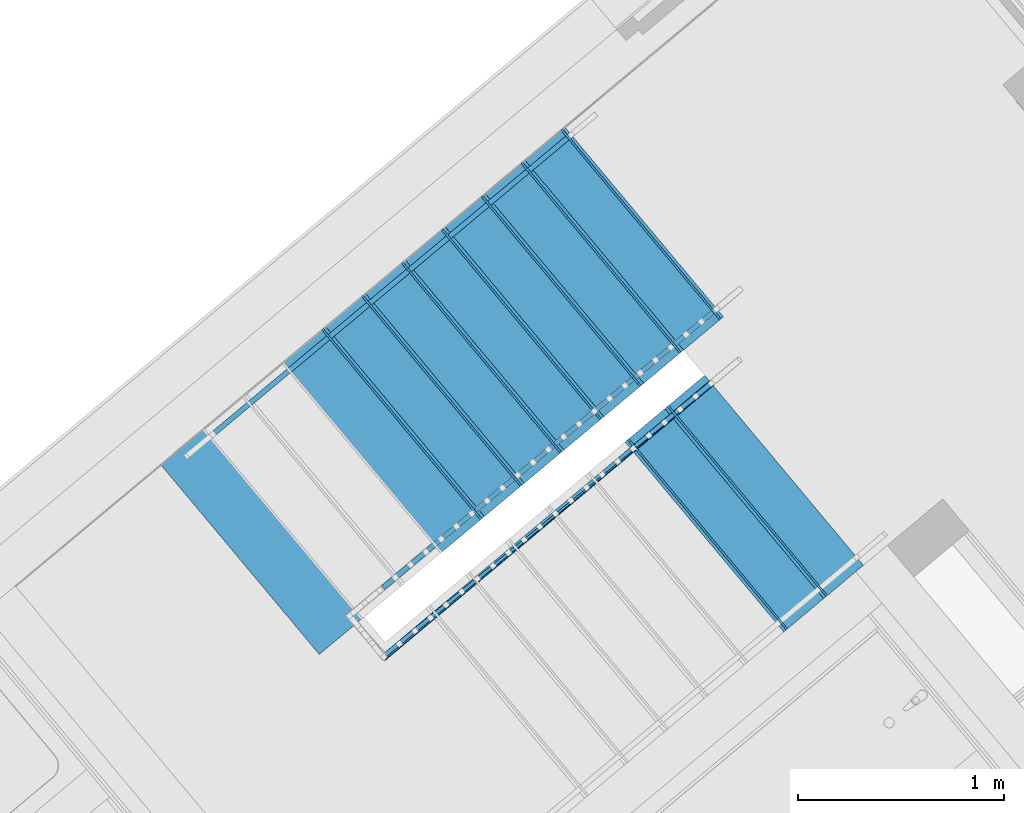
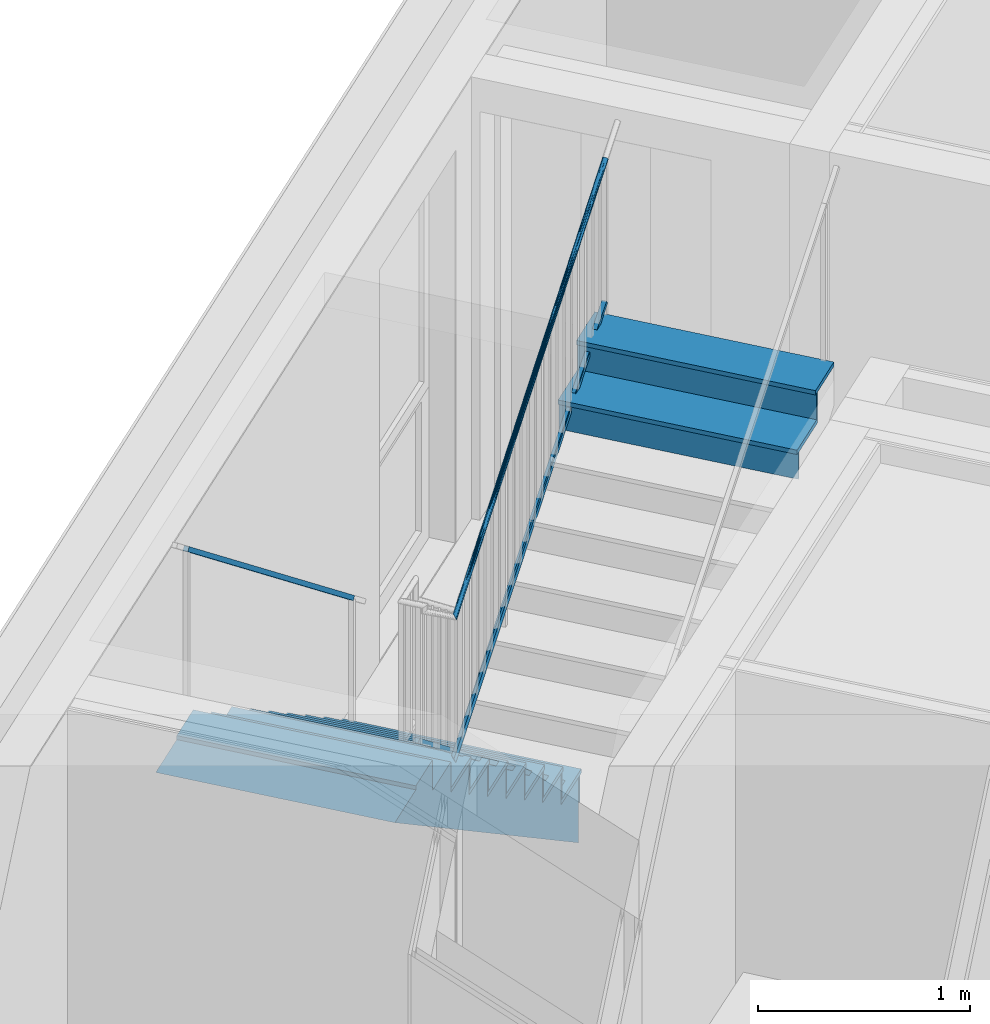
# One storey, part 33 of 58: 23 building element parts, 3 elements without a shape of their own.
"""IFC4 building model written with IfcOpenShell, lengths in metres."""

import ifcopenshell
import ifcopenshell.guid

model = None  # the IFC model being written
_history = None  # IfcOwnerHistory: only IFC2X3 demands one
_inside = {}  # id of a spatial element -> (the spatial element, [elements in it])
_under = {}  # id of a project, library or spatial element -> (it, [spatial elements below it])
_declared = {}  # id of a project -> (the project, [libraries it declares])
_typed = {}  # id of a type object -> (the type object, [elements of that type])
_made_of = {}  # id of a material, layer set ... -> (it, [elements and type objects made of it])


def new_model(schema):
    """Start an empty IFC model of exactly this schema.

    Asked for "IFC4X3", IfcOpenShell would pick the latest addendum, in which some entities
    have other attributes; the version numbers below select the first issue.
    IFC2X3 requires an IfcOwnerHistory on every rooted entity: one is made here for all.
    """
    global model, _history
    if schema == "IFC4X3":
        model = ifcopenshell.file(schema_version=(4, 3, 0, 0))
    else:
        model = ifcopenshell.file(schema=schema)
    _inside.clear()
    _under.clear()
    _declared.clear()
    _typed.clear()
    _made_of.clear()
    _history = None
    if model.schema == "IFC2X3":
        org = make("IfcOrganization", Name="unknown")
        user = make(
            "IfcPersonAndOrganization",
            ThePerson=make("IfcPerson", FamilyName="unknown"),
            TheOrganization=org,
        )
        app = make(
            "IfcApplication",
            ApplicationDeveloper=org,
            Version="unknown",
            ApplicationFullName="unknown",
            ApplicationIdentifier="unknown",
        )
        _history = make(
            "IfcOwnerHistory",
            OwningUser=user,
            OwningApplication=app,
            ChangeAction="ADDED",
            CreationDate=0,
        )
    return model


def make(cls, **values):
    """One entity of the class cls with the attributes given. An attribute that is None is left unset."""
    return model.create_entity(
        cls, **{name: value for name, value in values.items() if value is not None}
    )


def entity(cls, *values):
    """Any entity or typed value of the class cls, its attributes in the order of the schema. None: left unset."""
    e = model.create_entity(cls)
    for i, value in enumerate(values):
        if value is not None:
            e[i] = value
    return e


def rooted(cls, **values):
    """An entity with a GlobalId (a new one), such as an element, a storey or a relation."""
    return make(cls, GlobalId=ifcopenshell.guid.new(), OwnerHistory=_history, **values)


def si_unit(unit_type, name, prefix=None):
    """IfcSIUnit, for example si_unit("LENGTHUNIT", "METRE", prefix="MILLI")."""
    return make("IfcSIUnit", UnitType=unit_type, Prefix=prefix, Name=name)


def converted_unit(unit_type, name, factor, base, dimensions=None, offset=None):
    """IfcConversionBasedUnit, such as the inch: factor (a typed value) times the base unit."""
    return make(
        "IfcConversionBasedUnit"
        if offset is None
        else "IfcConversionBasedUnitWithOffset",
        ConversionOffset=offset,
        Dimensions=None
        if dimensions is None
        else entity("IfcDimensionalExponents", *dimensions),
        UnitType=unit_type,
        Name=name,
        ConversionFactor=make(
            "IfcMeasureWithUnit", ValueComponent=factor, UnitComponent=base
        ),
    )


def derived_unit(unit_type, elements):
    """IfcDerivedUnit: a product of units, each with its exponent."""
    return make(
        "IfcDerivedUnit",
        Elements=[
            make("IfcDerivedUnitElement", Unit=unit, Exponent=power)
            for unit, power in elements
        ],
        UnitType=unit_type,
    )


def assignment(units):
    """IfcUnitAssignment: the units of a project."""
    return None if units is None else make("IfcUnitAssignment", Units=units)


def point(xyz):
    """IfcCartesianPoint."""
    return None if xyz is None else make("IfcCartesianPoint", Coordinates=xyz)


def direction(xyz):
    """IfcDirection."""
    return None if xyz is None else make("IfcDirection", DirectionRatios=xyz)


def frame(location, z_axis=None, x_axis=None):
    """IfcAxis2Placement3D, a coordinate frame: its origin and axes. An axis left out is left unset."""
    return make(
        "IfcAxis2Placement3D",
        Location=point(location),
        Axis=direction(z_axis),
        RefDirection=direction(x_axis),
    )


def origin_with_axes():
    """The frame at (0, 0, 0) with the z axis (0, 0, 1) and the x axis (1, 0, 0) written out."""
    return frame((0.0, 0.0, 0.0), z_axis=(0.0, 0.0, 1.0), x_axis=(1.0, 0.0, 0.0))


def place(relative_to, where):
    """IfcLocalPlacement: puts the frame where relative to a parent placement (None: the world)."""
    return make(
        "IfcLocalPlacement", PlacementRelTo=relative_to, RelativePlacement=where
    )


def context(
    kind, dimensions, precision=None, world=None, true_north=None, identifier=None
):
    """IfcGeometricRepresentationContext, for example the 3D "Model" context."""
    return make(
        "IfcGeometricRepresentationContext",
        ContextIdentifier=identifier,
        ContextType=kind,
        CoordinateSpaceDimension=dimensions,
        Precision=precision,
        WorldCoordinateSystem=world,
        TrueNorth=true_north,
    )


def subcontext(parent, identifier, kind, view, scale=None):
    """IfcGeometricRepresentationSubContext, for example "Body" below "Model"."""
    return make(
        "IfcGeometricRepresentationSubContext",
        ContextIdentifier=identifier,
        ContextType=kind,
        ParentContext=parent,
        TargetScale=scale,
        TargetView=view,
    )


def project(units=None, contexts=None):
    """IfcProject with its units and contexts."""
    return rooted(
        "IfcProject",
        Name="project",
        RepresentationContexts=contexts,
        UnitsInContext=assignment(units),
    )


def spatial(cls, under=None, at=None, **own):
    """A site, building, storey or space (cls), placed at a placement, below another one or the project."""
    s = rooted(cls, ObjectPlacement=at, **own)
    if under is not None:
        _under.setdefault(under.id(), (under, []))[1].append(s)
    return s


def point_list(points):
    """IfcCartesianPointList2D or 3D."""
    cls = (
        "IfcCartesianPointList2D" if len(points[0]) == 2 else "IfcCartesianPointList3D"
    )
    return make(cls, CoordList=points)


def polygons(points, faces, closed=None, point_numbers=None):
    """IfcPolygonalFaceSet: a face is its outer loop, then its inner loops; points numbered from 1."""
    made = []
    for loops in faces:
        if len(loops) == 1:
            made.append(make("IfcIndexedPolygonalFace", CoordIndex=loops[0]))
        else:
            made.append(
                make(
                    "IfcIndexedPolygonalFaceWithVoids",
                    CoordIndex=loops[0],
                    InnerCoordIndices=loops[1:],
                )
            )
    return make(
        "IfcPolygonalFaceSet",
        Coordinates=point_list(points),
        Closed=closed,
        Faces=made,
        PnIndex=point_numbers,
    )


def shape(context_of_items, identifier, shape_type, items):
    """IfcShapeRepresentation: the items that make up one representation, for example the "Body"."""
    return make(
        "IfcShapeRepresentation",
        ContextOfItems=context_of_items,
        RepresentationIdentifier=identifier,
        RepresentationType=shape_type,
        Items=items,
    )


def material(Name=None, Category=None):
    """IfcMaterial."""
    return make("IfcMaterial", Name=Name, Category=Category)


def made_of(thing, what):
    """Note that an element or type object is made of a material, layer set ...; save() writes the relation."""
    if what is not None:
        _made_of.setdefault(what.id(), (what, []))[1].append(thing)
    return thing


def type_object(cls, material=None, **own):
    """A type object (cls), such as IfcWallType, which elements share."""
    return made_of(rooted(cls, **own), material)


def element(
    cls,
    number,
    at=None,
    inside=None,
    cuts=None,
    type_object=None,
    material=None,
    context=None,
    identifier="Body",
    shape_type=None,
    held_by="IfcProductDefinitionShape",
    body=None,
    shapes=None,
    **own,
):
    """One element of the class cls, such as IfcWall. Its Tag is "e" and its number.

    at: its placement. inside: the storey or other place that contains it. cuts: it is an
    opening in that element (IfcRelVoidsElement). A single representation is given by context,
    identifier, shape_type and body (its items); several are given by shapes. held_by: the class
    of the entity that holds the representations. save() writes the other relations.
    """
    e = rooted(cls, Tag="e%d" % number, ObjectPlacement=at, **own)
    if body is not None:
        shapes = [shape(context, identifier, shape_type, body)]
    if shapes is not None:
        e.Representation = make(held_by, Representations=shapes)
    if inside is not None:
        _inside.setdefault(inside.id(), (inside, []))[1].append(e)
    if cuts is not None:
        rooted(
            "IfcRelVoidsElement", RelatingBuildingElement=cuts, RelatedOpeningElement=e
        )
    if type_object is not None:
        _typed.setdefault(type_object.id(), (type_object, []))[1].append(e)
    return made_of(e, material)


def aggregate(whole, parts):
    """IfcRelAggregates: a whole, such as a stair, and the parts it consists of."""
    return rooted("IfcRelAggregates", RelatingObject=whole, RelatedObjects=parts)


def save(model, path):
    """Write the relations noted so far, then the file.

    IfcRelAggregates (storeys below a building ...), IfcRelContainedInSpatialStructure (elements
    in a storey), IfcRelDefinesByType, IfcRelAssociatesMaterial and IfcRelDeclares: one each for
    every whole, place, type object, material and project.
    """
    for whole, parts in _under.values():
        aggregate(whole, parts)
    for where, things in _inside.values():
        rooted(
            "IfcRelContainedInSpatialStructure",
            RelatedElements=things,
            RelatingStructure=where,
        )
    for kind, things in _typed.values():
        rooted("IfcRelDefinesByType", RelatedObjects=things, RelatingType=kind)
    for what, things in _made_of.values():
        rooted("IfcRelAssociatesMaterial", RelatedObjects=things, RelatingMaterial=what)
    for by, libraries in _declared.values():
        rooted("IfcRelDeclares", RelatingContext=by, RelatedDefinitions=libraries)
    model.write(path)


model = new_model("IFC4")

# Units and contexts
model_context = context("Model", 3, precision=1e-05, world=origin_with_axes(), true_north=direction((0.0, 1.0)))
body_context = subcontext(model_context, "Body", "Model", "MODEL_VIEW")
ifc_project = project(units=[si_unit("LENGTHUNIT", "METRE"), si_unit("AREAUNIT", "SQUARE_METRE"), si_unit("VOLUMEUNIT", "CUBIC_METRE"), converted_unit("PLANEANGLEUNIT", "DEGREE", entity("IfcPlaneAngleMeasure", 0.0174532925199), si_unit("PLANEANGLEUNIT", "RADIAN"), dimensions=[0, 0, 0, 0, 0, 0, 0]), converted_unit("TIMEUNIT", "Year", entity("IfcTimeMeasure", 31556926.0), si_unit("TIMEUNIT", "SECOND"), dimensions=[0, 0, 1, 0, 0, 0, 0]), si_unit("MASSUNIT", "GRAM", prefix="KILO"), si_unit("THERMODYNAMICTEMPERATUREUNIT", "DEGREE_CELSIUS"), si_unit("LUMINOUSINTENSITYUNIT", "LUMEN"), si_unit("ENERGYUNIT", "JOULE", prefix="MEGA"), derived_unit("THERMALCONDUCTANCEUNIT", [(si_unit("POWERUNIT", "WATT"), 1), (si_unit("LENGTHUNIT", "METRE"), -1), (si_unit("THERMODYNAMICTEMPERATUREUNIT", "KELVIN"), -1)]), derived_unit("SPECIFICHEATCAPACITYUNIT", [(si_unit("ENERGYUNIT", "JOULE"), 1), (si_unit("MASSUNIT", "GRAM", prefix="KILO"), -1), (si_unit("THERMODYNAMICTEMPERATUREUNIT", "KELVIN"), -1)]), derived_unit("MASSDENSITYUNIT", [(si_unit("MASSUNIT", "GRAM", prefix="KILO"), 1), (si_unit("VOLUMEUNIT", "CUBIC_METRE"), -1)])], contexts=[model_context])

# Site, building, storey
site_placement = place(None, frame((-0.00153261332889, -0.00661245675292, 0.0), z_axis=(0.0, 0.0, 1.0), x_axis=(1.0, 0.0, 0.0)))
site = spatial("IfcSite", under=ifc_project, at=site_placement, Name="Site", CompositionType="ELEMENT")
building_placement = place(site_placement, origin_with_axes())
building = spatial("IfcBuilding", under=site, at=building_placement, Name="Building", CompositionType="ELEMENT")
storey_placement = place(building_placement, frame((0.0, 0.0, 5.7), z_axis=(0.0, 0.0, 1.0), x_axis=(1.0, 0.0, 0.0)))
storey = spatial("IfcBuildingStorey", under=building, at=storey_placement, Name="DG1", CompositionType="ELEMENT", Elevation=5.7)

# Railing, building element parts
railing_type = type_object("IfcRailingType", Name="Geländerart", PredefinedType="NOTDEFINED")
railing_1_placement = place(storey_placement, frame((-0.398547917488, 23.8355657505, 0.05), z_axis=(0.0, 0.0, 1.0), x_axis=(1.0, 0.0, 0.0)))
railing_1 = element("IfcRailing", 1, at=railing_1_placement, inside=storey, type_object=railing_type, Name="Geländer - 001", PredefinedType="NOTDEFINED")
ifc_material_1 = material(Name="BEKLEIDUNG")
building_element_part_1_placement = place(railing_1_placement, origin_with_axes())
building_element_part_1 = element("IfcBuildingElementPart", 2, at=building_element_part_1_placement, material=ifc_material_1, Name="BEKLEIDUNG", PredefinedType="NOTDEFINED", context=body_context, shape_type="Tessellation", body=[
    polygons([(-0.0341749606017, 0.0528904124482, 0.0798578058), (-0.0459713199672, 0.0430344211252, 0.0601421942), (-1.67725492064, -1.31992142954, 1.71753377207), (-1.65806995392, -1.30389217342, 1.7297425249), (-0.0181457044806, 0.0337054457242, 0.0798578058), (-0.029942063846, 0.0238494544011, 0.0601421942), (-1.66122566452, -1.33910639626, 1.71753377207), (-1.6420406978, -1.32307714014, 1.7297425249)], [[[1, 2, 3, 4]], [[1, 5, 6, 2]], [[2, 6, 7, 3]], [[4, 3, 7, 8]], [[5, 1, 4, 8]], [[6, 5, 8, 7]]], closed=True),
])
building_element_part_2_placement = place(railing_1_placement, origin_with_axes())
building_element_part_2 = element("IfcBuildingElementPart", 3, at=building_element_part_2_placement, material=ifc_material_1, Name="BEKLEIDUNG", PredefinedType="NOTDEFINED", context=body_context, shape_type="Tessellation", body=[
    polygons([(-1.63742845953, -1.63075810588, 2.62537536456), (-1.63846858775, -1.63088446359, 2.62789734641), (-0.0630386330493, -0.30687497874, 3.89943593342), (-1.63648900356, -1.63122206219, 2.62285338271), (-1.63567876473, -1.63226223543, 2.62040803), (-1.63502236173, -1.63384702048, 2.61811360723), (-1.63453973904, -1.63592826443, 2.61603982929), (-1.63424556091, -1.63844272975, 2.61424970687), (-1.63414876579, -1.64131401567, 2.61279763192), (-1.63425229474, -1.64445487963, 2.61172772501), (-1.63455300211, -1.64776988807, 2.61107249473), (-1.63504175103, -1.65115831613, 2.61085184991), (-1.63570369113, -1.65451720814, 2.61107249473), (-1.63651870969, -1.65774450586, 2.61172772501), (-1.63746204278, -1.66074214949, 2.61279763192), (-1.63850502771, -1.66341905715, 2.61424970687), (-1.63961597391, -1.66569389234, 2.61603982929), (-1.64076112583, -1.66749753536, 2.61811360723), (-1.64190568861, -1.66877518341, 2.62040803), (-1.64301488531, -1.66948801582, 2.62285338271), (-1.64405501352, -1.66961437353, 2.62537536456), (-1.64499446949, -1.66915041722, 2.62789734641), (-1.64580470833, -1.66811024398, 2.63034269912), (-1.64646111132, -1.66652545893, 2.63263712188), (-1.64694373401, -1.66444421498, 2.63471089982), (-1.64723791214, -1.66192974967, 2.63650102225), (-1.64733470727, -1.65905846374, 2.6379530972), (-1.64723117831, -1.65591759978, 2.6390230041), (-1.64693047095, -1.65260259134, 2.63967823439), (-1.64644172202, -1.64921416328, 2.63989887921), (-1.64577978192, -1.64585527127, 2.63967823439), (-1.64496476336, -1.64262797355, 2.6390230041), (-1.64402143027, -1.63963032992, 2.6379530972), (-1.64297844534, -1.63695342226, 2.63650102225), (-1.64186749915, -1.63467858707, 2.63471089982), (-1.64072234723, -1.63287494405, 2.63263712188), (-1.63957778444, -1.631597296, 2.63034269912), (-0.0636185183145, -0.30824141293, 3.90158839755), (-0.0621391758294, -0.305826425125, 3.89721601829), (-0.0609474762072, -0.305127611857, 3.89499610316), (-0.0594997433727, -0.304799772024, 3.89284363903), (-0.0578399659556, -0.304852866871, 3.89082402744), (-0.0560185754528, -0.305285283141, 3.88899863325), (-0.054090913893, -0.306083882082, 3.88742292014), (-0.0521155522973, -0.30722439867, 3.88614476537), (-0.0501525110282, -0.308672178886, 3.88520300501), (-0.0482614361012, -0.310383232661, 3.88462625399), (-0.0464997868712, -0.312305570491, 3.88443203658), (-0.0449210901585, -0.314380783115, 3.88462625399), (-0.043573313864, -0.316545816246, 3.88520300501), (-0.0424974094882, -0.318734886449, 3.88614476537), (-0.0417260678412, -0.320881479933, 3.88742292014), (-0.0412827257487, -0.322920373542, 3.88899863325), (-0.0411808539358, -0.324789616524, 3.89082402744), (-0.041423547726, -0.326432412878, 3.89284363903), (-0.0420034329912, -0.327798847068, 3.89499610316), (-0.0429028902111, -0.328847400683, 3.89721601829), (-0.0440945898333, -0.329546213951, 3.89943593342), (-0.0455423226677, -0.329874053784, 3.90158839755), (-0.0472021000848, -0.329820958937, 3.90360800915), (-0.0490234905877, -0.329388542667, 3.90543340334), (-0.0509511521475, -0.328589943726, 3.90700911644), (-0.0529265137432, -0.327449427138, 3.90828727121), (-0.0548895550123, -0.326001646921, 3.90922903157), (-0.0567806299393, -0.324290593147, 3.90980578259), (-0.0585422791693, -0.322368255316, 3.91), (-0.0601209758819, -0.320293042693, 3.90980578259), (-0.0614687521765, -0.318128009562, 3.90922903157), (-0.0625446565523, -0.315938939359, 3.90828727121), (-0.0633159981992, -0.313792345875, 3.90700911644), (-0.0637593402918, -0.311753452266, 3.90543340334), (-0.0638612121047, -0.309884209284, 3.90360800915)], [[[1, 2, 3]], [[1, 4, 5, 6, 7, 8, 9, 10, 11, 12, 13, 14, 15, 16, 17, 18, 19, 20, 21, 22, 23, 24, 25, 26, 27, 28, 29, 30, 31, 32, 33, 34, 35, 36, 37, 2]], [[2, 38, 3]], [[1, 3, 39]], [[4, 1, 39]], [[5, 4, 40]], [[6, 5, 41]], [[7, 6, 42]], [[8, 7, 43]], [[9, 8, 44]], [[10, 9, 45]], [[11, 10, 46]], [[12, 11, 47]], [[13, 12, 48]], [[14, 13, 49]], [[15, 14, 50]], [[16, 15, 51]], [[17, 16, 52]], [[18, 17, 53]], [[19, 18, 54]], [[20, 19, 55]], [[21, 20, 56]], [[22, 21, 57]], [[23, 22, 58]], [[24, 23, 59]], [[25, 24, 60]], [[26, 25, 61]], [[27, 26, 62]], [[28, 27, 63]], [[29, 28, 64]], [[30, 29, 65]], [[31, 30, 66]], [[32, 31, 67]], [[33, 32, 68]], [[34, 33, 69]], [[35, 34, 70]], [[36, 35, 71]], [[37, 36, 72]], [[2, 37, 38]], [[39, 3, 38, 72, 71, 70, 69, 68, 67, 66, 65, 64, 63, 62, 61, 60, 59, 58, 57, 56, 55, 54, 53, 52, 51, 50, 49, 48, 47, 46, 45, 44, 43, 42, 41, 40]], [[4, 39, 40]], [[5, 40, 41]], [[6, 41, 42]], [[7, 42, 43]], [[8, 43, 44]], [[9, 44, 45]], [[10, 45, 46]], [[11, 46, 47]], [[12, 47, 48]], [[13, 48, 49]], [[14, 49, 50]], [[15, 50, 51]], [[16, 51, 52]], [[17, 52, 53]], [[18, 53, 54]], [[19, 54, 55]], [[20, 55, 56]], [[21, 56, 57]], [[22, 57, 58]], [[23, 58, 59]], [[24, 59, 60]], [[25, 60, 61]], [[26, 61, 62]], [[27, 62, 63]], [[28, 63, 64]], [[29, 64, 65]], [[30, 65, 66]], [[31, 66, 67]], [[32, 67, 68]], [[33, 68, 69]], [[34, 69, 70]], [[35, 70, 71]], [[36, 71, 72]], [[37, 72, 38]]], closed=True),
])
building_element_part_3_placement = place(railing_1_placement, origin_with_axes())
building_element_part_3 = element("IfcBuildingElementPart", 4, at=building_element_part_3_placement, material=ifc_material_1, Name="BEKLEIDUNG", PredefinedType="NOTDEFINED", context=body_context, shape_type="Tessellation", body=[
    polygons([(-1.6539527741, -1.66459421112, 1.82200180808), (-1.64445279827, -1.66621433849, 1.79779595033), (-0.0455094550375, -0.327767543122, 3.06934668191), (-1.64843064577, -1.63221398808, 1.82200180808), (-1.63893066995, -1.63383411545, 1.79779595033), (-0.0615396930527, -0.308583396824, 3.06934668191), (-0.0555448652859, -0.336153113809, 3.09065331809), (-0.0715751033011, -0.316968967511, 3.09065331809)], [[[1, 2, 3]], [[1, 4, 5, 2]], [[2, 6, 3]], [[1, 3, 7]], [[4, 1, 7]], [[5, 4, 8]], [[2, 5, 6]], [[7, 3, 6, 8]], [[4, 7, 8]], [[5, 8, 6]]], closed=True),
])
aggregate(railing_1, [building_element_part_1, building_element_part_2, building_element_part_3])

# Railing, building element part
railing_2_placement = place(storey_placement, frame((-1.16795221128, 24.7564441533, 0.05), z_axis=(0.0, 0.0, 1.0), x_axis=(1.0, 0.0, 0.0)))
railing_2 = element("IfcRailing", 5, at=railing_2_placement, inside=storey, type_object=railing_type, Name="Geländer - 001", PredefinedType="NOTDEFINED")
building_element_part_4_placement = place(railing_2_placement, origin_with_axes())
building_element_part_4 = element("IfcBuildingElementPart", 6, at=building_element_part_4_placement, material=ifc_material_1, Name="BEKLEIDUNG", PredefinedType="NOTDEFINED", context=body_context, shape_type="Tessellation", body=[
    polygons([(0.0240438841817, -0.0287774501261, 0.9), (0.0122290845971, -0.0386488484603, 0.880303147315), (-1.72609254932, -1.49103618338, 2.65089138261), (-1.71427774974, -1.48116478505, 2.67058823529), (0.0400731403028, -0.0479624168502, 0.9), (0.0282583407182, -0.0578338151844, 0.880303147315), (-1.7100632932, -1.5102211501, 2.65089138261), (-1.69824849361, -1.50034975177, 2.67058823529)], [[[1, 2, 3, 4]], [[1, 5, 6, 2]], [[2, 6, 7, 3]], [[4, 3, 7, 8]], [[5, 1, 4, 8]], [[6, 5, 8, 7]]], closed=True),
])
aggregate(railing_2, [building_element_part_4])

# Stair, building element parts
stair_type = type_object("IfcStairType", Name="Treppentyp", PredefinedType="NOTDEFINED")
stair_placement = place(storey_placement, frame((-0.972083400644, 24.9200947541, 0.05), z_axis=(0.0, 0.0, 1.0), x_axis=(1.0, 0.0, 0.0)))
stair = element("IfcStair", 7, at=stair_placement, inside=storey, type_object=stair_type, Name="Treppe - 001", PredefinedType="NOTDEFINED")
ifc_material_2 = material(Name="Stahlbeton Decke")
building_element_part_5_placement = place(stair_placement, origin_with_axes())
building_element_part_5 = element("IfcBuildingElementPart", 8, at=building_element_part_5_placement, material=ifc_material_2, Name="Stahlbeton Decke", PredefinedType="NOTDEFINED", context=body_context, shape_type="Tessellation", body=[
    polygons([(-1.93419043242, -1.61603796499, 1.54558823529), (-1.16478618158, -2.53691636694, 1.54558823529), (-1.16478615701, -2.53691634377, 1.56852941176), (-1.93419045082, -1.61603794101, 1.56852941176), (-2.15516351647, -1.80066346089, 1.54558823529), (-1.38575924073, -2.72154184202, 1.54558823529), (-1.16478618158, -2.53691636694, 1.34302096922), (-1.10040387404, -2.48312422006, 1.28400133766), (-1.03602159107, -2.42933209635, 1.22498172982), (-0.971639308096, -2.37553997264, 1.16596212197), (-0.907257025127, -2.32174784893, 1.10694251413), (-0.842874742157, -2.26795572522, 1.04792290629), (-0.778492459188, -2.21416360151, 0.988903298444), (-0.714110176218, -2.1603714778, 0.929883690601), (-0.649727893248, -2.1065793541, 0.870864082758), (-0.585345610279, -2.05278723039, 0.811844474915), (-0.520963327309, -1.99899510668, 0.752824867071), (-0.45658104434, -1.94520298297, 0.693805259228), (-0.39219876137, -1.89141085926, 0.634785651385), (-0.3278164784, -1.83761873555, 0.575766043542), (-0.263434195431, -1.78382661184, 0.516746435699), (-0.199051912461, -1.73003448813, 0.457726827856), (-0.134669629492, -1.67624236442, 0.398707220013), (-0.0702873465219, -1.62245024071, 0.339687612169), (-0.00590506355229, -1.568658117, 0.280668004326), (0.0584772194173, -1.51486599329, 0.221648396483), (0.122859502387, -1.46107386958, 0.16262878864), (0.187241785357, -1.40728174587, 0.103609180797), (0.251624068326, -1.35348962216, 0.0445895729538), (0.316006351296, -1.29969749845, -0.0144300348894), (0.380388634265, -1.24590537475, -0.0734496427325), (0.444770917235, -1.19211325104, -0.132469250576), (0.509153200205, -1.13832112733, -0.191488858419), (0.54283953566, -1.11017581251, -0.222369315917), (0.54283953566, -1.11017581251, 0.152058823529), (0.361126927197, -1.26199874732, 0.152058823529), (0.361126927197, -1.26199874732, 0.329117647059), (0.167980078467, -1.42337511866, 0.329117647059), (0.167980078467, -1.42337511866, 0.506176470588), (-0.0251667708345, -1.58475148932, 0.506176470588), (-0.0251667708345, -1.58475148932, 0.683235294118), (-0.218313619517, -1.74612786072, 0.683235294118), (-0.218313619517, -1.74612786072, 0.860294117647), (-0.411460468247, -1.90750423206, 0.860294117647), (-0.411460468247, -1.90750423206, 1.03735294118), (-0.604607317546, -2.06888060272, 1.03735294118), (-0.604607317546, -2.06888060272, 1.21441176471), (-0.797754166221, -2.23025697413, 1.21441176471), (-0.797754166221, -2.23025697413, 1.39147058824), (-0.990901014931, -2.3916333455, 1.39147058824), (-0.990901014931, -2.3916333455, 1.56852941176), (-1.7603053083, -1.47075494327, 1.56852941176), (-1.7603053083, -1.47075494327, 1.39147058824), (-1.56715845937, -1.30937857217, 1.39147058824), (-1.56715845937, -1.30937857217, 1.21441176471), (-1.37401161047, -1.14800220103, 1.21441176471), (-1.37401161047, -1.14800220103, 1.03735294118), (-1.18086476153, -0.986625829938, 1.03735294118), (-1.18086476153, -0.986625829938, 0.860294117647), (-0.987717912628, -0.825249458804, 0.860294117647), (-0.987717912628, -0.825249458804, 0.683235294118), (-0.794571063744, -0.663873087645, 0.683235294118), (-0.794571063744, -0.663873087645, 0.506176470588), (-0.601424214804, -0.502496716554, 0.506176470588), (-0.601424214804, -0.502496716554, 0.329117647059), (-0.408277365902, -0.341120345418, 0.329117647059), (-0.408277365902, -0.341120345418, 0.152058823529), (-0.22656475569, -0.189297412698, 0.152058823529), (-0.22656475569, -0.189297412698, -0.222369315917), (-0.260251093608, -0.217442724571, -0.191488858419), (-0.324633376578, -0.27123484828, -0.132469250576), (-0.389015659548, -0.32502697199, -0.0734496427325), (-0.453397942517, -0.378819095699, -0.0144300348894), (-0.517780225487, -0.432611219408, 0.0445895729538), (-0.582162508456, -0.486403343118, 0.103609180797), (-0.646544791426, -0.540195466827, 0.16262878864), (-0.710927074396, -0.593987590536, 0.221648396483), (-0.775309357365, -0.647779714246, 0.280668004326), (-0.839691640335, -0.701571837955, 0.339687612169), (-0.904073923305, -0.755363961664, 0.398707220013), (-0.968456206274, -0.809156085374, 0.457726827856), (-1.03283848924, -0.862948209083, 0.516746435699), (-1.09722077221, -0.916740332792, 0.575766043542), (-1.16160305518, -0.970532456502, 0.634785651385), (-1.22598533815, -1.02432458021, 0.693805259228), (-1.29036762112, -1.07811670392, 0.752824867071), (-1.35474990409, -1.13190882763, 0.811844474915), (-1.41913218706, -1.18570095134, 0.870864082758), (-1.48351447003, -1.23949307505, 0.929883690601), (-1.547896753, -1.29328519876, 0.988903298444), (-1.61227903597, -1.34707732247, 1.04792290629), (-1.67666131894, -1.40086944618, 1.10694251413), (-1.74104360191, -1.45466156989, 1.16596212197), (-1.80542588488, -1.5084536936, 1.22498172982), (-1.86980816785, -1.5622458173, 1.28400133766), (-1.93419043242, -1.61603796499, 1.34302094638)], [[[1, 2, 3, 4]], [[2, 1, 5, 6]], [[7, 8, 9, 10, 11, 12, 13, 14, 15, 16, 17, 18, 19, 20, 21, 22, 23, 24, 25, 26, 27, 28, 29, 30, 31, 32, 33, 34, 35, 36, 37, 38, 39, 40, 41, 42, 43, 44, 45, 46, 47, 48, 49, 50, 51, 3, 2, 6]], [[52, 4, 3, 51]], [[1, 4, 52, 53, 54, 55, 56, 57, 58, 59, 60, 61, 62, 63, 64, 65, 66, 67, 68, 69, 70, 71, 72, 73, 74, 75, 76, 77, 78, 79, 80, 81, 82, 83, 84, 85, 86, 87, 88, 89, 90, 91, 92, 93, 94, 95, 96, 5]], [[96, 95, 8, 7, 6, 5]], [[95, 94, 9, 8]], [[94, 93, 10, 9]], [[93, 92, 11, 10]], [[92, 91, 12, 11]], [[91, 90, 13, 12]], [[90, 89, 14, 13]], [[89, 88, 15, 14]], [[88, 87, 16, 15]], [[87, 86, 17, 16]], [[86, 85, 18, 17]], [[85, 84, 19, 18]], [[84, 83, 20, 19]], [[83, 82, 21, 20]], [[82, 81, 22, 21]], [[81, 80, 23, 22]], [[80, 79, 24, 23]], [[79, 78, 25, 24]], [[78, 77, 26, 25]], [[77, 76, 27, 26]], [[76, 75, 28, 27]], [[75, 74, 29, 28]], [[74, 73, 30, 29]], [[73, 72, 31, 30]], [[72, 71, 32, 31]], [[71, 70, 33, 32]], [[70, 69, 34, 33]], [[69, 68, 35, 34]], [[36, 35, 68, 67]], [[37, 36, 67, 66]], [[65, 38, 37, 66]], [[39, 38, 65, 64]], [[63, 40, 39, 64]], [[41, 40, 63, 62]], [[61, 42, 41, 62]], [[43, 42, 61, 60]], [[59, 44, 43, 60]], [[45, 44, 59, 58]], [[57, 46, 45, 58]], [[47, 46, 57, 56]], [[55, 48, 47, 56]], [[49, 48, 55, 54]], [[53, 50, 49, 54]], [[51, 50, 53, 52]]], closed=True),
])
building_element_part_6_placement = place(stair_placement, origin_with_axes())
building_element_part_6 = element("IfcBuildingElementPart", 9, at=building_element_part_6_placement, material=ifc_material_1, Name="BEKLEIDUNG", PredefinedType="NOTDEFINED", context=body_context, shape_type="Tessellation", body=[
    polygons([(-0.207379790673, -0.173268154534, 0.152058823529), (-0.215053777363, -0.179679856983, 0.152058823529), (0.55435051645, -1.10055825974, 0.152058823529), (0.56202450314, -1.09414655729, 0.152058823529), (-0.207379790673, -0.173268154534, 0.0), (-0.215053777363, -0.179679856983, 0.0), (0.55435051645, -1.10055825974, 0.0), (0.56202450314, -1.09414655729, 0.0)], [[[1, 2, 3, 4]], [[1, 5, 6, 2]], [[2, 6, 7, 3]], [[4, 3, 7, 8]], [[5, 1, 4, 8]], [[6, 5, 8, 7]]], closed=True),
])
building_element_part_7_placement = place(stair_placement, origin_with_axes())
building_element_part_7 = element("IfcBuildingElementPart", 10, at=building_element_part_7_placement, material=ifc_material_1, Name="BEKLEIDUNG", PredefinedType="NOTDEFINED", context=body_context, shape_type="Tessellation", body=[
    polygons([(-0.400526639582, -0.334644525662, 0.329117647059), (-0.408200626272, -0.341056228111, 0.329117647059), (0.361203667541, -1.26193463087, 0.329117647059), (0.368877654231, -1.25552292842, 0.329117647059), (-0.400526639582, -0.334644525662, 0.177058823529), (-0.408200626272, -0.341056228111, 0.177058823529), (0.361203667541, -1.26193463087, 0.177058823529), (0.368877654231, -1.25552292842, 0.177058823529)], [[[1, 2, 3, 4]], [[1, 5, 6, 2]], [[2, 6, 7, 3]], [[4, 3, 7, 8]], [[5, 1, 4, 8]], [[6, 5, 8, 7]]], closed=True),
])
building_element_part_8_placement = place(stair_placement, origin_with_axes())
building_element_part_8 = element("IfcBuildingElementPart", 11, at=building_element_part_8_placement, material=ifc_material_1, Name="BEKLEIDUNG", PredefinedType="NOTDEFINED", context=body_context, shape_type="Tessellation", body=[
    polygons([(-0.593673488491, -0.49602089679, 0.506176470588), (-0.601347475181, -0.502432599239, 0.506176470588), (0.168056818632, -1.42331100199, 0.506176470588), (0.175730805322, -1.41689929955, 0.506176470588), (-0.593673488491, -0.49602089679, 0.354117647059), (-0.601347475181, -0.502432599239, 0.354117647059), (0.168056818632, -1.42331100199, 0.354117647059), (0.175730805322, -1.41689929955, 0.354117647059)], [[[1, 2, 3, 4]], [[1, 5, 6, 2]], [[2, 6, 7, 3]], [[4, 3, 7, 8]], [[5, 1, 4, 8]], [[6, 5, 8, 7]]], closed=True),
])
building_element_part_9_placement = place(stair_placement, origin_with_axes())
building_element_part_9 = element("IfcBuildingElementPart", 12, at=building_element_part_9_placement, material=ifc_material_1, Name="BEKLEIDUNG", PredefinedType="NOTDEFINED", context=body_context, shape_type="Tessellation", body=[
    polygons([(-0.7868203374, -0.657397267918, 0.683235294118), (-0.794494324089, -0.663808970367, 0.683235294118), (-0.0250900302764, -1.58468737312, 0.683235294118), (-0.0174160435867, -1.57827567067, 0.683235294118), (-0.7868203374, -0.657397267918, 0.531176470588), (-0.794494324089, -0.663808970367, 0.531176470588), (-0.0250900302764, -1.58468737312, 0.531176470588), (-0.0174160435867, -1.57827567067, 0.531176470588)], [[[1, 2, 3, 4]], [[1, 5, 6, 2]], [[2, 6, 7, 3]], [[4, 3, 7, 8]], [[5, 1, 4, 8]], [[6, 5, 8, 7]]], closed=True),
])
building_element_part_10_placement = place(stair_placement, origin_with_axes())
building_element_part_10 = element("IfcBuildingElementPart", 13, at=building_element_part_10_placement, material=ifc_material_1, Name="BEKLEIDUNG", PredefinedType="NOTDEFINED", context=body_context, shape_type="Tessellation", body=[
    polygons([(-0.979967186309, -0.818773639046, 0.860294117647), (-0.987641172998, -0.825185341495, 0.860294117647), (-0.218236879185, -1.74606374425, 0.860294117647), (-0.210562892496, -1.7396520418, 0.860294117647), (-0.979967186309, -0.818773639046, 0.708235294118), (-0.987641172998, -0.825185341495, 0.708235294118), (-0.218236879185, -1.74606374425, 0.708235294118), (-0.210562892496, -1.7396520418, 0.708235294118)], [[[1, 2, 3, 4]], [[1, 5, 6, 2]], [[2, 6, 7, 3]], [[4, 3, 7, 8]], [[5, 1, 4, 8]], [[6, 5, 8, 7]]], closed=True),
])
building_element_part_11_placement = place(stair_placement, origin_with_axes())
building_element_part_11 = element("IfcBuildingElementPart", 14, at=building_element_part_11_placement, material=ifc_material_1, Name="BEKLEIDUNG", PredefinedType="NOTDEFINED", context=body_context, shape_type="Tessellation", body=[
    polygons([(-1.17311403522, -0.980150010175, 1.03735294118), (-1.18078802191, -0.986561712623, 1.03735294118), (-0.411383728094, -1.90744011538, 1.03735294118), (-0.403709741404, -1.90102841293, 1.03735294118), (-1.17311403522, -0.980150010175, 0.885294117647), (-1.18078802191, -0.986561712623, 0.885294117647), (-0.411383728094, -1.90744011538, 0.885294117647), (-0.403709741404, -1.90102841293, 0.885294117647)], [[[1, 2, 3, 4]], [[1, 5, 6, 2]], [[2, 6, 7, 3]], [[4, 3, 7, 8]], [[5, 1, 4, 8]], [[6, 5, 8, 7]]], closed=True),
])
building_element_part_12_placement = place(stair_placement, origin_with_axes())
building_element_part_12 = element("IfcBuildingElementPart", 15, at=building_element_part_12_placement, material=ifc_material_1, Name="BEKLEIDUNG", PredefinedType="NOTDEFINED", context=body_context, shape_type="Tessellation", body=[
    polygons([(-1.36626088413, -1.1415263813, 1.21441176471), (-1.37393487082, -1.14793808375, 1.21441176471), (-0.604530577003, -2.06881648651, 1.21441176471), (-0.596856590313, -2.06240478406, 1.21441176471), (-1.36626088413, -1.1415263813, 1.06235294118), (-1.37393487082, -1.14793808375, 1.06235294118), (-0.604530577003, -2.06881648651, 1.06235294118), (-0.596856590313, -2.06240478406, 1.06235294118)], [[[1, 2, 3, 4]], [[1, 5, 6, 2]], [[2, 6, 7, 3]], [[4, 3, 7, 8]], [[5, 1, 4, 8]], [[6, 5, 8, 7]]], closed=True),
])
building_element_part_13_placement = place(stair_placement, origin_with_axes())
building_element_part_13 = element("IfcBuildingElementPart", 16, at=building_element_part_13_placement, material=ifc_material_1, Name="BEKLEIDUNG", PredefinedType="NOTDEFINED", context=body_context, shape_type="Tessellation", body=[
    polygons([(0.877617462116, -2.60252235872, 2.80794117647), (0.885291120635, -2.59611026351, 2.80794117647), (0.115839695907, -1.67527124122, 2.80794117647), (0.108166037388, -1.68168333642, 2.80794117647), (0.877617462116, -2.60252235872, 2.65588235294), (0.885291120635, -2.59611026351, 2.65588235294), (0.115839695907, -1.67527124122, 2.65588235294), (0.108166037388, -1.68168333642, 2.65588235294)], [[[1, 2, 3, 4]], [[1, 5, 6, 2]], [[2, 6, 7, 3]], [[4, 3, 7, 8]], [[5, 1, 4, 8]], [[6, 5, 8, 7]]], closed=True),
])
building_element_part_14_placement = place(stair_placement, origin_with_axes())
building_element_part_14 = element("IfcBuildingElementPart", 17, at=building_element_part_14_placement, material=ifc_material_1, Name="BEKLEIDUNG", PredefinedType="NOTDEFINED", context=body_context, shape_type="Tessellation", body=[
    polygons([(1.07075605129, -2.44113610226, 2.985), (1.07842970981, -2.43472400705, 2.985), (0.30897828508, -1.51388498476, 2.985), (0.301304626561, -1.52029707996, 2.985), (1.07075605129, -2.44113610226, 2.83294117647), (1.07842970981, -2.43472400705, 2.83294117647), (0.30897828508, -1.51388498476, 2.83294117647), (0.301304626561, -1.52029707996, 2.83294117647)], [[[1, 2, 3, 4]], [[1, 5, 6, 2]], [[2, 6, 7, 3]], [[4, 3, 7, 8]], [[5, 1, 4, 8]], [[6, 5, 8, 7]]], closed=True),
])
building_element_part_15_placement = place(stair_placement, origin_with_axes())
building_element_part_15 = element("IfcBuildingElementPart", 18, at=building_element_part_15_placement, material=ifc_material_1, Name="BEKLEIDUNG", PredefinedType="NOTDEFINED", context=body_context, shape_type="Tessellation", body=[
    polygons([(0.573535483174, -1.08452900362, 0.152058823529), (-0.195868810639, -0.163650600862, 0.152058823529), (-0.195868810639, -0.163650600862, 0.177058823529), (0.573535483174, -1.08452900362, 0.177058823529), (0.361203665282, -1.26193463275, 0.152058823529), (-0.408200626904, -0.341056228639, 0.152058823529), (-0.408200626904, -0.341056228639, 0.177058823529), (0.361203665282, -1.26193463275, 0.177058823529)], [[[1, 2, 3, 4]], [[1, 5, 6, 2]], [[2, 6, 7, 3]], [[4, 3, 7, 8]], [[5, 1, 4, 8]], [[6, 5, 8, 7]]], closed=True),
])
building_element_part_16_placement = place(stair_placement, origin_with_axes())
building_element_part_16 = element("IfcBuildingElementPart", 19, at=building_element_part_16_placement, material=ifc_material_1, Name="BEKLEIDUNG", PredefinedType="NOTDEFINED", context=body_context, shape_type="Tessellation", body=[
    polygons([(0.380388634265, -1.24590537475, 0.329117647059), (-0.389015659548, -0.32502697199, 0.329117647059), (-0.389015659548, -0.32502697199, 0.354117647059), (0.380388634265, -1.24590537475, 0.354117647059), (0.168056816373, -1.42331100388, 0.329117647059), (-0.601347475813, -0.502432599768, 0.329117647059), (-0.601347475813, -0.502432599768, 0.354117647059), (0.168056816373, -1.42331100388, 0.354117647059)], [[[1, 2, 3, 4]], [[1, 5, 6, 2]], [[2, 6, 7, 3]], [[4, 3, 7, 8]], [[5, 1, 4, 8]], [[6, 5, 8, 7]]], closed=True),
])
building_element_part_17_placement = place(stair_placement, origin_with_axes())
building_element_part_17 = element("IfcBuildingElementPart", 20, at=building_element_part_17_placement, material=ifc_material_1, Name="BEKLEIDUNG", PredefinedType="NOTDEFINED", context=body_context, shape_type="Tessellation", body=[
    polygons([(0.187241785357, -1.40728174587, 0.506176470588), (-0.582162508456, -0.486403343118, 0.506176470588), (-0.582162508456, -0.486403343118, 0.531176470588), (0.187241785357, -1.40728174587, 0.531176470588), (-0.0250900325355, -1.58468737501, 0.506176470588), (-0.794494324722, -0.663808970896, 0.506176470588), (-0.794494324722, -0.663808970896, 0.531176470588), (-0.0250900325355, -1.58468737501, 0.531176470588)], [[[1, 2, 3, 4]], [[1, 5, 6, 2]], [[2, 6, 7, 3]], [[4, 3, 7, 8]], [[5, 1, 4, 8]], [[6, 5, 8, 7]]], closed=True),
])
building_element_part_18_placement = place(stair_placement, origin_with_axes())
building_element_part_18 = element("IfcBuildingElementPart", 21, at=building_element_part_18_placement, material=ifc_material_1, Name="BEKLEIDUNG", PredefinedType="NOTDEFINED", context=body_context, shape_type="Tessellation", body=[
    polygons([(-0.00590506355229, -1.568658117, 0.683235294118), (-0.775309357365, -0.647779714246, 0.683235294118), (-0.775309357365, -0.647779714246, 0.708235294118), (-0.00590506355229, -1.568658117, 0.708235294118), (-0.218236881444, -1.74606374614, 0.683235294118), (-0.987641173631, -0.825185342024, 0.683235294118), (-0.987641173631, -0.825185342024, 0.708235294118), (-0.218236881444, -1.74606374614, 0.708235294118)], [[[1, 2, 3, 4]], [[1, 5, 6, 2]], [[2, 6, 7, 3]], [[4, 3, 7, 8]], [[5, 1, 4, 8]], [[6, 5, 8, 7]]], closed=True),
])
building_element_part_19_placement = place(stair_placement, origin_with_axes())
building_element_part_19 = element("IfcBuildingElementPart", 22, at=building_element_part_19_placement, material=ifc_material_1, Name="BEKLEIDUNG", PredefinedType="NOTDEFINED", context=body_context, shape_type="Tessellation", body=[
    polygons([(-0.199051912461, -1.73003448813, 0.860294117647), (-0.968456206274, -0.809156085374, 0.860294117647), (-0.968456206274, -0.809156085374, 0.885294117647), (-0.199051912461, -1.73003448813, 0.885294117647), (-0.411383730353, -1.90744011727, 0.860294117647), (-1.18078802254, -0.986561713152, 0.860294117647), (-1.18078802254, -0.986561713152, 0.885294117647), (-0.411383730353, -1.90744011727, 0.885294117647)], [[[1, 2, 3, 4]], [[1, 5, 6, 2]], [[2, 6, 7, 3]], [[4, 3, 7, 8]], [[5, 1, 4, 8]], [[6, 5, 8, 7]]], closed=True),
])
building_element_part_20_placement = place(stair_placement, origin_with_axes())
building_element_part_20 = element("IfcBuildingElementPart", 23, at=building_element_part_20_placement, material=ifc_material_1, Name="BEKLEIDUNG", PredefinedType="NOTDEFINED", context=body_context, shape_type="Tessellation", body=[
    polygons([(-0.39219876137, -1.89141085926, 1.03735294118), (-1.16160305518, -0.970532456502, 1.03735294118), (-1.16160305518, -0.970532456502, 1.06235294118), (-0.39219876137, -1.89141085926, 1.06235294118), (-0.604530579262, -2.06881648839, 1.03735294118), (-1.37393487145, -1.14793808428, 1.03735294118), (-1.37393487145, -1.14793808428, 1.06235294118), (-0.604530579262, -2.06881648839, 1.06235294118)], [[[1, 2, 3, 4]], [[1, 5, 6, 2]], [[2, 6, 7, 3]], [[4, 3, 7, 8]], [[5, 1, 4, 8]], [[6, 5, 8, 7]]], closed=True),
])
building_element_part_21_placement = place(stair_placement, origin_with_axes())
building_element_part_21 = element("IfcBuildingElementPart", 24, at=building_element_part_21_placement, material=ifc_material_1, Name="BEKLEIDUNG", PredefinedType="NOTDEFINED", context=body_context, shape_type="Tessellation", body=[
    polygons([(-0.585345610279, -2.05278723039, 1.21441176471), (-1.35474990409, -1.13190882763, 1.21441176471), (-1.35474990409, -1.13190882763, 1.23941176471), (-0.585345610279, -2.05278723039, 1.23941176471), (-0.797677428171, -2.23019285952, 1.21441176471), (-1.56708172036, -1.30931445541, 1.21441176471), (-1.56708172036, -1.30931445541, 1.23941176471), (-0.797677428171, -2.23019285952, 1.23941176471)], [[[1, 2, 3, 4]], [[1, 5, 6, 2]], [[2, 6, 7, 3]], [[4, 3, 7, 8]], [[5, 1, 4, 8]], [[6, 5, 8, 7]]], closed=True),
])
building_element_part_22_placement = place(stair_placement, origin_with_axes())
building_element_part_22 = element("IfcBuildingElementPart", 25, at=building_element_part_22_placement, material=ifc_material_1, Name="BEKLEIDUNG", PredefinedType="NOTDEFINED", context=body_context, shape_type="Tessellation", body=[
    polygons([(0.0966555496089, -1.69130147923, 2.80794117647), (0.866106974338, -2.61214050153, 2.80794117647), (0.866106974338, -2.61214050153, 2.83294117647), (0.0966555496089, -1.69130147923, 2.83294117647), (0.308978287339, -1.51388498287, 2.80794117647), (1.07842971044, -2.43472400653, 2.80794117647), (1.07842971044, -2.43472400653, 2.83294117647), (0.308978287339, -1.51388498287, 2.83294117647)], [[[1, 2, 3, 4]], [[1, 5, 6, 2]], [[2, 6, 7, 3]], [[4, 3, 7, 8]], [[5, 1, 4, 8]], [[6, 5, 8, 7]]], closed=True),
])
building_element_part_23_placement = place(stair_placement, origin_with_axes())
building_element_part_23 = element("IfcBuildingElementPart", 26, at=building_element_part_23_placement, material=ifc_material_1, Name="BEKLEIDUNG", PredefinedType="NOTDEFINED", context=body_context, shape_type="Tessellation", body=[
    polygons([(0.289794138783, -1.52991522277, 2.985), (1.05924556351, -2.45075424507, 2.985), (1.05924556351, -2.45075424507, 3.01), (0.289794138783, -1.52991522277, 3.01), (0.482932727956, -1.36852896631, 2.985), (1.25238415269, -2.28936798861, 2.985), (1.25238415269, -2.28936798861, 3.01), (0.482932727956, -1.36852896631, 3.01)], [[[1, 2, 3, 4]], [[1, 5, 6, 2]], [[2, 6, 7, 3]], [[4, 3, 7, 8]], [[5, 1, 4, 8]], [[6, 5, 8, 7]]], closed=True),
])
aggregate(stair, [building_element_part_5, building_element_part_6, building_element_part_7, building_element_part_8, building_element_part_9, building_element_part_10, building_element_part_11, building_element_part_12, building_element_part_13, building_element_part_14, building_element_part_15, building_element_part_16, building_element_part_17, building_element_part_18, building_element_part_19, building_element_part_20, building_element_part_21, building_element_part_22, building_element_part_23])

save(model, "model.ifc")
